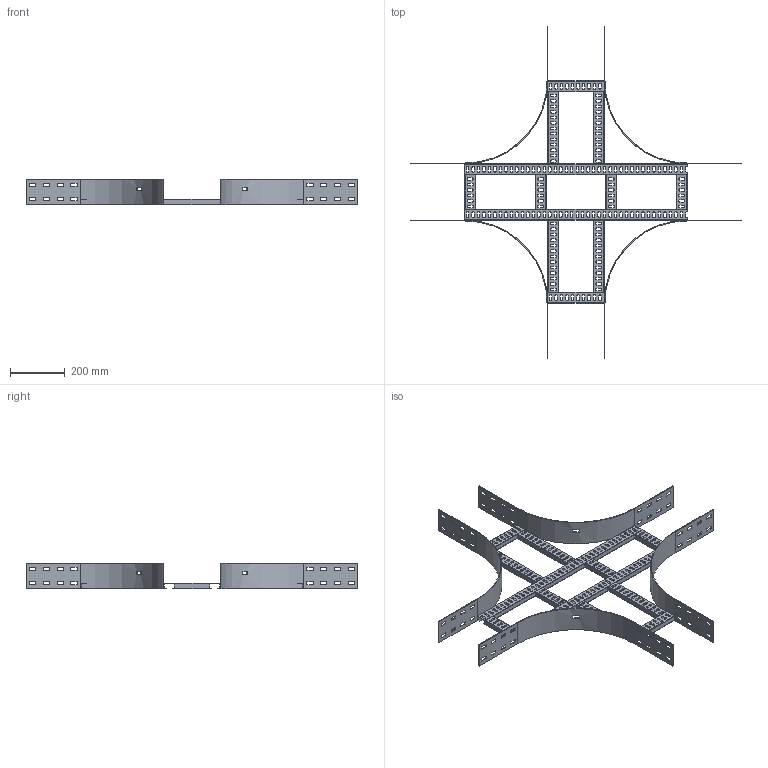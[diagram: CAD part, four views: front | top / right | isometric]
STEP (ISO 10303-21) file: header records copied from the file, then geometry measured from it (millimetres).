
FILE_DESCRIPTION(/* description */ ('','CAx-IF Rec.Pracs.---Representation and Presentation of Product Manufacturing Information (PMI)---4.0---2014-10-13'),/* implementation_level */ '2;1');
FILE_NAME(/* name */ 'Eurostrut_ECO100-200-300_Crossover for Cable Ladder ECL.step',/* time_stamp */ '2026-09-03T13:26:30+02:00',/* author */ (''),/* organization */ (''),/* preprocessor_version */ 'ST-DEVELOPER v20.1',/* originating_system */ 'Autodesk Revit 2027 27.2.0.39',/* authorisation */ '');
FILE_SCHEMA (('AP242_MANAGED_MODEL_BASED_3D_ENGINEERING_MIM_LF { 1 0 10303 442 2 1 4 }'));
Length unit declared in the file: millimetre
Products named in the file (10): TopLevelAssembly; Sweep; Sweep_1; Sweep_2; Sweep_3; Eurostrut_Cable Ladder_Rung_With slots; Eurostrut_Cable Ladder_Rung_With slots_1; Eurostrut_Cable Ladder_Rung Array Straight_Slotted; Eurostrut_Cable Ladder_Rung Array Straight_Slotted_1; Eurostrut_Cable Ladder_Accessory End_54-94-142
Assembly tree (19 placements, depth 2):
  TopLevelAssembly
    Sweep
    Sweep_1
    Eurostrut_Cable Ladder_Rung_With slots  x2
    Eurostrut_Cable Ladder_Rung_With slots_1  x2
    Sweep_2
    Sweep_3
    Eurostrut_Cable Ladder_Rung Array Straight_Slotted
    Eurostrut_Cable Ladder_Rung Array Straight_Slotted_1  x2
    Eurostrut_Cable Ladder_Accessory End_54-94-142  x8
Bounding box: 1211 x 1211 x 94 mm (x, y, z)
Volume: 1375697.8 mm3; surface area: 1279795.9 mm2
Topology: 24 solids, 24 shells, 1272 faces, 3672 edges, 2448 vertices
Faces by surface type: plane 860, bspline 356, cylinder 56
Entity records: 26890 total; most frequent: CARTESIAN_POINT 9853, ORIENTED_EDGE 3600, DIRECTION 3206, EDGE_CURVE 1800, LINE 1300, VECTOR 1300, VERTEX_POINT 1200, AXIS2_PLACEMENT_3D 953
